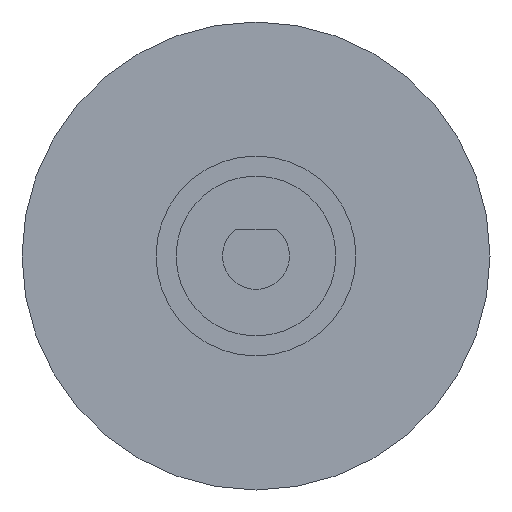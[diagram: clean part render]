
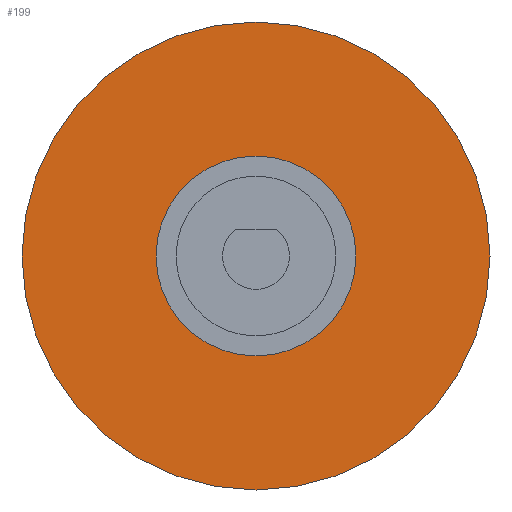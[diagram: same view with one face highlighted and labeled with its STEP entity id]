
A CAD part, front view. The second image highlights one B-rep face of the part: STEP entity #199.
In plain terms, the highlighted planar face has unit normal (0, -1, 0).
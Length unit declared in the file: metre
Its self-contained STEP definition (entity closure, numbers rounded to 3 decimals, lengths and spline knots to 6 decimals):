
#35=ORIENTED_EDGE('',*,*,#75,.F.);
#36=ORIENTED_EDGE('',*,*,#73,.T.);
#73=EDGE_CURVE('',#93,#93,#110,.T.);
#75=EDGE_CURVE('',#95,#95,#112,.T.);
#93=VERTEX_POINT('',#350);
#95=VERTEX_POINT('',#355);
#110=CIRCLE('',#234,0.0175);
#112=CIRCLE('',#237,0.007475);
#128=EDGE_LOOP('',(#35));
#129=EDGE_LOOP('',(#36));
#160=FACE_BOUND('',#128,.T.);
#161=FACE_BOUND('',#129,.T.);
#187=PLANE('',#236);
#199=ADVANCED_FACE('',(#160,#161),#187,.T.);
#234=AXIS2_PLACEMENT_3D('',#349,#278,#279);
#236=AXIS2_PLACEMENT_3D('',#353,#282,#283);
#237=AXIS2_PLACEMENT_3D('',#354,#284,#285);
#278=DIRECTION('',(0.,-1.,0.));
#279=DIRECTION('',(0.,0.,-1.));
#282=DIRECTION('',(0.,-1.,0.));
#283=DIRECTION('',(1.,0.,0.));
#284=DIRECTION('',(0.,-1.,0.));
#285=DIRECTION('',(0.,0.,-1.));
#349=CARTESIAN_POINT('',(0.,-0.0615,0.));
#350=CARTESIAN_POINT('',(0.,-0.0615,-0.0175));
#353=CARTESIAN_POINT('',(0.,-0.0615,0.));
#354=CARTESIAN_POINT('',(0.,-0.0615,0.));
#355=CARTESIAN_POINT('',(0.,-0.0615,-0.007475));
